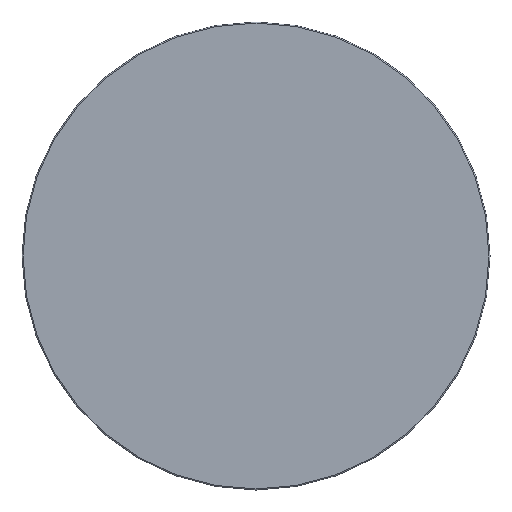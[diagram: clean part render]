
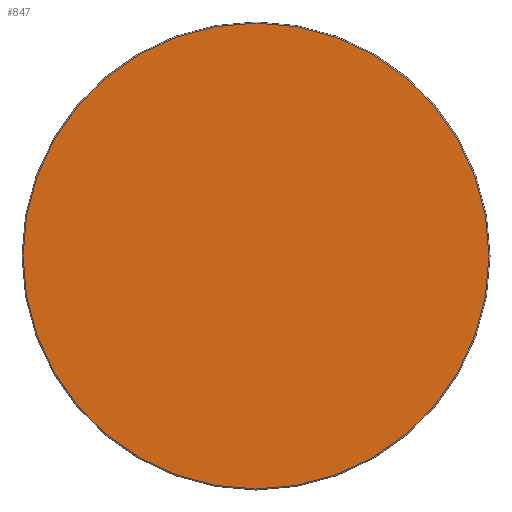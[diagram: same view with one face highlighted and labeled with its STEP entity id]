
A CAD part, left-side view. The second image highlights one B-rep face of the part: STEP entity #847.
In plain terms, the highlighted planar face has unit normal (-1, 0, 0).
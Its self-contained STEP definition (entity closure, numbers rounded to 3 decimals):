
#824=CARTESIAN_POINT('',(0.0,224.0,0.0));
#825=VERTEX_POINT('',#824);
#826=CARTESIAN_POINT('',(0.0,0.0,0.0));
#827=DIRECTION('',(1.0,0.0,0.0));
#828=DIRECTION('',(0.0,-1.0,0.0));
#829=AXIS2_PLACEMENT_3D('',#826,#827,#828);
#830=CIRCLE('',#829,224.0);
#831=EDGE_CURVE('',#825,#825,#830,.T.);
#839=CARTESIAN_POINT('',(0.0,167.,0.));
#840=DIRECTION('',(-1.0,0.0,0.0));
#841=DIRECTION('',(0.0,0.0,1.0));
#842=AXIS2_PLACEMENT_3D('',#839,#840,#841);
#843=PLANE('',#842);
#844=ORIENTED_EDGE('',*,*,#831,.F.);
#845=EDGE_LOOP('',(#844));
#846=FACE_OUTER_BOUND('',#845,.T.);
#847=ADVANCED_FACE('',(#846),#843,.T.);
